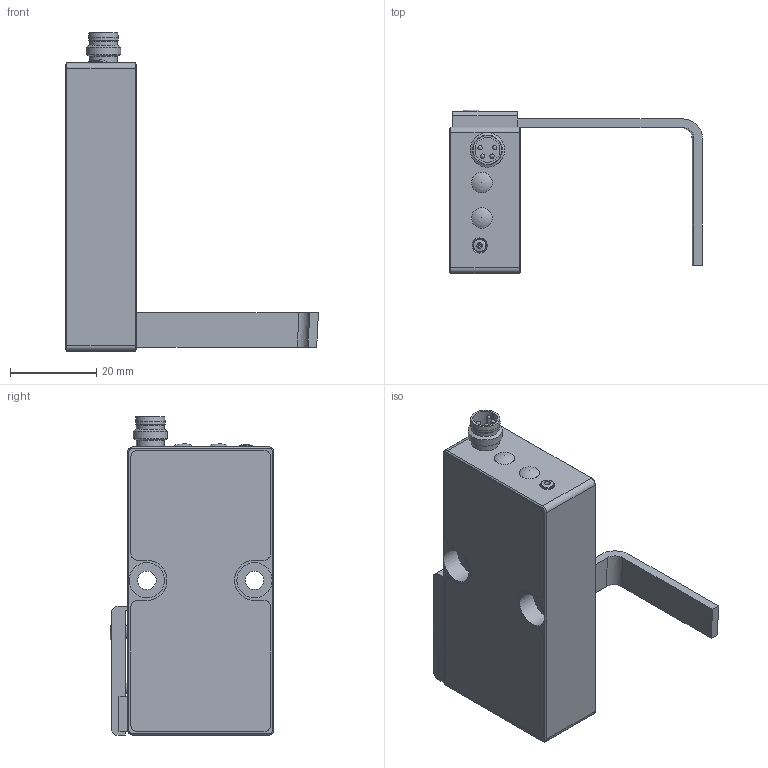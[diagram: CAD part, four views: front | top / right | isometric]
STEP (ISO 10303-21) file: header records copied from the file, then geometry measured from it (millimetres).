
FILE_DESCRIPTION(/* description */ ('Unknown'),/* implementation_level */ '2;1');
FILE_NAME(/* name */ 'ZADM 034P240.6901',/* time_stamp */ '2022-07-27T15:26:11+02:00',/* author */ ('Unknown'),/* organization */ ('Baumer'),/* preprocessor_version */ 'ST-DEVELOPER v16.7',/* originating_system */ 'Solid Edge',/* authorisation */ 'Unknown');
FILE_SCHEMA (('AUTOMOTIVE_DESIGN {1 0 10303 214 3 1 1}'));
Length unit declared in the file: millimetre
Products named in the file (5): 85057987-a; D0001018935-ZADM 034x240.xx0x_0; 158961_0; 158966_0; Schraube ISO7380-1-HRK-I6k-M3 x 6-A2_1
Assembly tree (4 placements, depth 2):
  85057987-a
    D0001018935-ZADM 034x240.xx0x_0
    158961_0
    158966_0
    Schraube ISO7380-1-HRK-I6k-M3 x 6-A2_1
Bounding box: 58.75 x 38.05 x 74 mm (x, y, z)
Volume: 38918.6 mm3; surface area: 12141.3 mm2
Topology: 4 solids, 4 shells, 158 faces, 383 edges, 242 vertices
Faces by surface type: plane 83, cylinder 48, cone 17, sphere 8, torus 2
Full cylindrical faces by diameter (mm): 1 x4, 2.4 x1, 2.459 x1, 2.5 x1, 3 x1, 3.15 x1, 3.2 x1, 4.3 x2, 4.8 x2, 5.77 x1, 6.3 x1, 6.5 x2, 6.9 x1, 8 x1, 8.2 x4
Entity records: 5218 total; most frequent: DIRECTION 760, CARTESIAN_POINT 707, ORIENTED_EDGE 636, EDGE_CURVE 318, AXIS2_PLACEMENT_3D 279, VERTEX_POINT 226, FACE_BOUND 222, EDGE_LOOP 220
